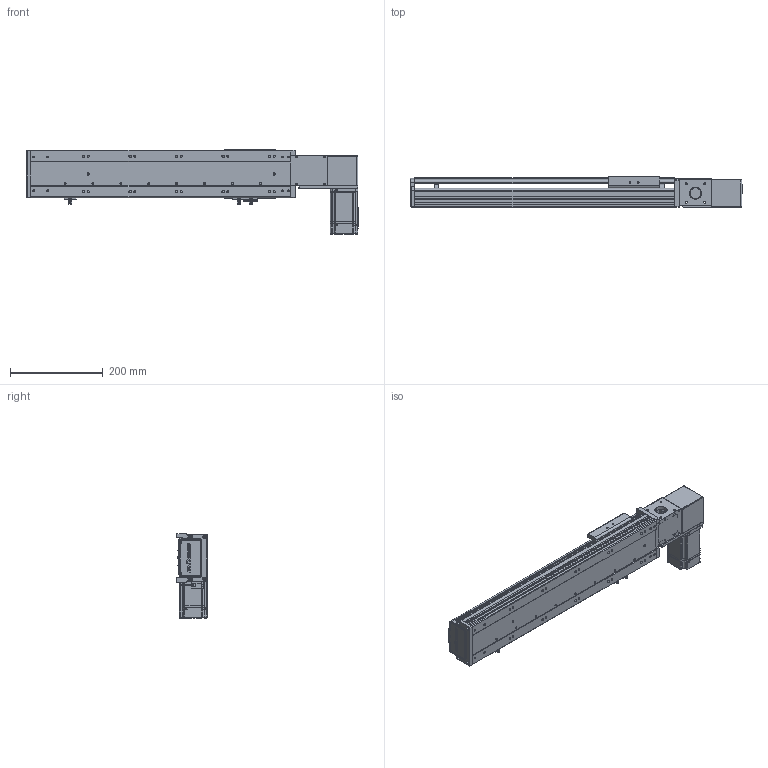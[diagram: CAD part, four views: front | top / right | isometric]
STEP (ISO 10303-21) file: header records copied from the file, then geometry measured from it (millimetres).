
FILE_DESCRIPTION (( 'STEP AP203' ), '1' );
FILE_NAME ('RY100-T-300-LK.SLDASM_350.step', '2024-04-25T05:36:39', ( '盈信电脑' ), ( '东莞市道滘镇水果街19号' ), 'SwSTEP 2.0', 'SolidWorks 2016', '' );
FILE_SCHEMA (( 'CONFIG_CONTROL_DESIGN' ));
Length unit declared in the file: millimetre
Products named in the file (13): 滅袉蝶18-10; 覜茼ん672; RY100-T翋肮祭謫裔啣2; RY100-T肮祭謫翋盓傅釱; RY100-T-300-RK倰第菁釱_350; RY100-T左右折电机安装板; RY100-T-300-LK.SLDASM_350; 1; RY100綴裔啣; RY100-T肮祭謫臏賑輸; RY80-T肮祭謫俋欶; RY100俋离覜茼え; RY100-T-300-RK倰第奻裔_350
Assembly tree (16 placements, depth 2):
  RY100-T-300-LK.SLDASM_350
    RY100-T-300-RK倰第菁釱_350
    RY100-T-300-RK倰第奻裔_350
    RY100-T肮祭謫臏賑輸
    RY100綴裔啣
    覜茼ん672  x3
    RY100俋离覜茼え
    RY100-T肮祭謫翋盓傅釱
    滅袉蝶18-10  x2
    RY100-T翋肮祭謫裔啣2  x2
    RY80-T肮祭謫俋欶
    RY100-T左右折电机安装板
    1
Bounding box: 714 x 66 x 182.5 mm (x, y, z)
Volume: 1575148.8 mm3; surface area: 610323.2 mm2
Topology: 16 solids, 16 shells, 2084 faces, 5789 edges, 3759 vertices
Faces by surface type: plane 1166, cylinder 713, cone 127, bspline 78
Entity records: 65859 total; most frequent: CARTESIAN_POINT 15905, ORIENTED_EDGE 10314, DIRECTION 9773, EDGE_CURVE 5157, LINE 3409, VECTOR 3409, VERTEX_POINT 3395, AXIS2_PLACEMENT_3D 3182
